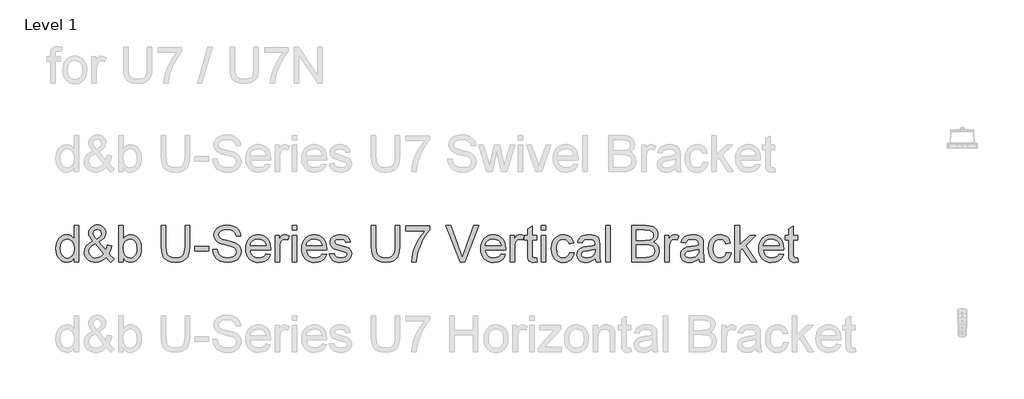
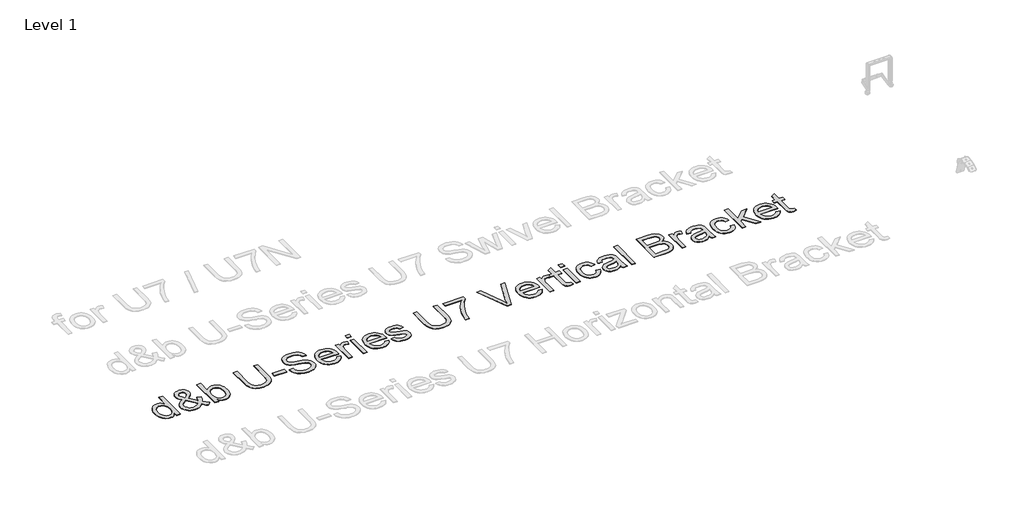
# One storey, part 4 of 29: 1 proxy.
"""IFC4 building model written with IfcOpenShell, lengths in millimetres."""

from ifc_helpers import new_model, si_unit, origin, origin_with_axes, place, context, project, spatial, polyline, outline, extrude, element, save

model = new_model("IFC4")

# Units and contexts
model_context = context("Model", 3, world=origin())
ifc_project = project(units=[si_unit("LENGTHUNIT", "METRE", prefix="MILLI")], contexts=[model_context])

# Site, building, storey
site = spatial("IfcSite", under=ifc_project)
building = spatial("IfcBuilding", under=site)
storey = spatial("IfcBuildingStorey", under=building, Name="Level 1", Elevation=0.0)

# Proxy
placement = place(None, origin())
element("IfcBuildingElementProxy", 1, Name="400mm Arial", ObjectType="400mm Arial", at=placement, inside=storey, context=model_context, shape_type="SweptSolid", body=[
    extrude(outline(polyline([(-20788.4119982, -8835.6363385), (-20788.4119982, -8788.2531375), (-20803.4399777, -8811.7301402), (-20821.6440051, -8828.4994278), (-20843.0240804, -8838.5610004), (-20867.5802036, -8841.9148579), (-20900.051921, -8837.0588156), (-20929.7767862, -8822.4906885), (-20954.9399147, -8799.2282837), (-20973.7264219, -8768.2894079), (-20985.4250694, -8730.9248599), (-20989.3246185, -8688.3854386), (-20985.7316377, -8646.3733147), (-20974.9526952, -8608.4324183), (-20957.0000539, -8576.7209903), (-20931.8859763, -8553.3972718), (-20901.5111863, -8539.049874), (-20867.7764073, -8534.2674081), (-20843.20189, -8537.6887106), (-20821.4723268, -8547.9526183), (-20803.0537016, -8563.6857049), (-20788.4119982, -8583.5145445), (-20788.4119982, -8433.8110979), (-20738.1838431, -8433.8110979), (-20738.1838431, -8835.6363385), (-20788.4119982, -8835.6363385)]), holes=[polyline([(-20939.0964634, -8688.1892348), (-20937.6801177, -8712.5460886), (-20933.4310807, -8733.6226612), (-20926.3493523, -8751.4189528), (-20916.4349325, -8765.9349632), (-20891.7377879, -8785.2487679), (-20877.8625053, -8790.0772191), (-20862.9694159, -8791.6867028), (-20848.0058157, -8790.1507955), (-20834.2133066, -8785.5430735), (-20810.1415614, -8767.1121855), (-20800.6348775, -8753.2031804), (-20793.844389, -8736.0506824), (-20788.4119982, -8692.0152076), (-20793.9424909, -8643.8717172), (-20800.8556067, -8625.336596), (-20810.5339688, -8610.4925575), (-20822.235682, -8599.1188724), (-20835.2188507, -8590.9948117), (-20849.4834751, -8586.1203753), (-20865.0295551, -8584.4955631), (-20880.2169501, -8586.0559959), (-20894.0922327, -8590.7372943), (-20906.6554028, -8598.5394583), (-20917.9064605, -8609.4624879), (-20927.1770868, -8623.7455063), (-20933.7989627, -8641.627637), (-20939.0964634, -8688.1892348)])]), origin_with_axes(), (0.0, 0.0, 1.0), 5.0),
    extrude(outline(polyline([(-20432.4003287, -8785.9967946), (-20457.9313392, -8810.4609473), (-20485.6696416, -8827.9353421), (-20515.664287, -8838.4199789), (-20547.9643262, -8841.9148579), (-20577.2722584, -8839.3274212), (-20603.3918801, -8831.5651111), (-20626.3231911, -8818.6279276), (-20646.0661915, -8800.5158707), (-20658.8991418, -8783.1457092), (-20668.0655348, -8764.7822662), (-20673.5653707, -8745.4255419), (-20675.3986493, -8725.0755362), (-20669.5002746, -8689.881492), (-20651.8051507, -8658.2681659), (-20622.3868538, -8630.2600833), (-20581.3189604, -8605.8817698), (-20603.2324646, -8577.5303307), (-20616.3903773, -8555.0650035), (-20622.975465, -8535.8860888), (-20625.1704942, -8517.3938872), (-20623.4414488, -8499.8397847), (-20618.2543127, -8483.4751673), (-20609.6090858, -8468.300035), (-20597.5057682, -8454.3143878), (-20582.784357, -8442.5973462), (-20566.2848495, -8434.2280308), (-20548.0072457, -8429.2064416), (-20527.9515456, -8427.5325785), (-20508.8032878, -8429.1328652), (-20491.4821772, -8433.9337252), (-20475.9882138, -8441.9351586), (-20462.3213977, -8453.1371654), (-20451.1623105, -8466.5832523), (-20443.1915339, -8481.3169262), (-20438.409068, -8497.3381871), (-20436.8149127, -8514.647035), (-20441.5360649, -8542.6305921), (-20455.6995218, -8568.5049591), (-20479.3052831, -8592.270136), (-20512.353349, -8613.9261227), (-20439.6598668, -8704.4741445), (-20427.2745063, -8678.5997775), (-20417.9793545, -8648.8503868), (-20367.7511994, -8659.7396939), (-20383.2022432, -8706.2645035), (-20403.2640747, -8742.4395664), (-20374.7164319, -8775.7451497), (-20342.6371219, -8803.2627229), (-20380.3082382, -8841.9148579), (-20405.9373505, -8818.4685121), (-20432.4003287, -8785.9967946)]), holes=[polyline([(-20537.7617322, -8582.2392202), (-20511.4949577, -8565.5741659), (-20496.4608468, -8551.091878), (-20489.3975125, -8537.0019976), (-20487.0430678, -8521.5141656), (-20490.1455392, -8503.9661944), (-20499.4529537, -8489.9744158), (-20513.4202068, -8480.8141542), (-20530.5021941, -8477.7607336), (-20547.9520634, -8480.7896287), (-20562.2381476, -8489.876314), (-20571.7662912, -8503.3285323), (-20574.9423391, -8519.4540264), (-20570.6258571, -8537.8481261), (-20557.578309, -8558.3023651), (-20537.7617322, -8582.2392202)]), polyline([(-20466.0492686, -8749.7972063), (-20555.7143735, -8637.8629779), (-20589.9641873, -8659.7151684), (-20610.8966728, -8679.9486782), (-20621.6020389, -8699.2747456), (-20625.1704942, -8718.4046094), (-20620.2899264, -8742.0962099), (-20605.648223, -8766.6707271), (-20594.8692805, -8777.6152165), (-20582.0547244, -8785.4327089), (-20567.2045545, -8790.1232043), (-20550.3187709, -8791.6867028), (-20527.5959264, -8788.7681723), (-20504.1618433, -8780.0125808), (-20482.7388484, -8766.6216762), (-20466.0492686, -8749.7972063)])]), origin_with_axes(), (0.0, 0.0, 1.0), 5.0),
    extrude(outline(polyline([(-20242.1808118, -8835.6363385), (-20292.4089668, -8835.6363385), (-20292.4089668, -8433.8110979), (-20242.1808118, -8433.8110979), (-20242.1808118, -8582.8278314), (-20225.6629102, -8561.5826462), (-20207.011293, -8546.4075139), (-20186.2259603, -8537.3024345), (-20163.306912, -8534.2674081), (-20137.432545, -8537.0019976), (-20112.9806551, -8545.2057661), (-20091.3491937, -8558.3636787), (-20073.9361126, -8575.9607008), (-20060.2876906, -8597.8251541), (-20049.9502065, -8623.7853602), (-20043.4386952, -8652.7621987), (-20041.2681915, -8683.676549), (-20043.5153373, -8719.3488398), (-20050.2567749, -8750.729174), (-20061.4925041, -8777.8175516), (-20077.2225251, -8800.6139726), (-20096.1040685, -8818.6831099), (-20116.7943651, -8831.5896366), (-20139.2934148, -8839.3335526), (-20163.6012176, -8841.9148579), (-20187.274424, -8838.5855258), (-20208.2620918, -8828.5975297), (-20226.5642211, -8811.9508694), (-20242.1808118, -8788.645545), (-20242.1808118, -8835.6363385)]), holes=[polyline([(-20242.1808118, -8686.0309938), (-20238.7472465, -8727.9204903), (-20228.4465506, -8756.2719294), (-20216.2757879, -8771.7658928), (-20202.1307252, -8782.8330095), (-20186.0113625, -8789.4732795), (-20167.9176997, -8791.6867028), (-20152.8958515, -8790.0557593), (-20138.9285984, -8785.1629288), (-20126.0159404, -8777.0082112), (-20114.1578774, -8765.5916066), (-20104.2434577, -8750.9437719), (-20097.1617293, -8733.0953637), (-20092.9126922, -8712.0463822), (-20091.4963465, -8687.7968274), (-20096.9287373, -8641.8361035), (-20103.7192258, -8624.0428776), (-20113.2259097, -8609.7077425), (-20124.6578427, -8598.677414), (-20137.2240785, -8590.798608), (-20150.9246172, -8586.0713243), (-20165.7594586, -8584.4955631), (-20180.7813068, -8586.1265066), (-20194.7485599, -8591.0193372), (-20207.6612179, -8599.1740547), (-20219.5192809, -8610.5906593), (-20229.4337006, -8625.0913413), (-20236.515429, -8642.498291), (-20240.7644661, -8662.8115085), (-20242.1808118, -8686.0309938)])]), origin_with_axes(), (0.0, 0.0, 1.0), 5.0),
    extrude(outline(polyline([(-19557.8221989, -8433.8110979), (-19507.5940438, -8433.8110979), (-19507.5940438, -8665.6258058), (-19511.0030836, -8719.9129256), (-19521.2302031, -8761.7165829), (-19529.4155775, -8778.6698116), (-19540.3355414, -8793.9675712), (-19570.3792376, -8819.5966835), (-19589.5213641, -8829.3608848), (-19611.4348683, -8836.3353143), (-19663.5760097, -8841.9148579), (-19714.576717, -8837.0588156), (-19755.3503048, -8822.4906885), (-19771.9049946, -8811.6902863), (-19785.9090359, -8798.7132489), (-19797.3624287, -8783.5595764), (-19806.2651729, -8766.2292688), (-19817.706303, -8722.6597778), (-19821.520013, -8665.6258058), (-19821.520013, -8433.8110979), (-19771.2918579, -8433.8110979), (-19771.2918579, -8663.8599722), (-19768.8147858, -8708.999093), (-19761.3835695, -8740.4284782), (-19747.9190885, -8762.1948295), (-19727.3422222, -8778.3448491), (-19700.5113621, -8788.3512394), (-19668.2848993, -8791.6867028), (-19640.6017791, -8790.0373652), (-19617.1983529, -8785.0893524), (-19598.0746205, -8776.8426643), (-19583.230582, -8765.297301), (-19572.1144144, -8749.0614423), (-19564.1742947, -8726.7432679), (-19559.4102228, -8698.3427779), (-19557.8221989, -8663.8599722), (-19557.8221989, -8433.8110979)])), origin_with_axes(), (0.0, 0.0, 1.0), 5.0),
    extrude(outline(polyline([(-19451.0873693, -8716.3444702), (-19451.0873693, -8666.1163151), (-19294.1243847, -8666.1163151), (-19294.1243847, -8716.3444702), (-19451.0873693, -8716.3444702)])), origin_with_axes(), (0.0, 0.0, 1.0), 5.0),
    extrude(outline(polyline([(-19250.174749, -8697.5089121), (-19199.946594, -8697.5089121), (-19194.1831094, -8725.3821046), (-19183.7597862, -8747.7861181), (-19167.499402, -8765.5670812), (-19144.2247344, -8779.5711224), (-19115.7751935, -8788.6578077), (-19083.9901891, -8791.6867028), (-19056.006632, -8789.3935717), (-19031.5056911, -8782.5141784), (-19011.6523261, -8771.6248713), (-18997.6114966, -8757.301999), (-18989.2605753, -8740.8576738), (-18986.4769349, -8723.6040082), (-18988.5615995, -8706.7918011), (-18994.8155934, -8692.2604623), (-19007.519785, -8679.862839), (-19028.9550426, -8669.4517786), (-19102.0899832, -8650.2728639), (-19150.0985836, -8637.580935), (-19180.8167302, -8625.5021429), (-19205.8204431, -8608.6040966), (-19223.5400926, -8588.1253322), (-19234.0983058, -8564.5073081), (-19237.6177103, -8538.1914827), (-19233.26444, -8508.7731858), (-19220.2046292, -8481.3414517), (-19198.7816343, -8458.0913096), (-19169.338812, -8441.2177887), (-19133.997615, -8430.9538811), (-19094.8794961, -8427.5325785), (-19052.4994903, -8431.1132966), (-19015.4169852, -8441.8554509), (-18984.956356, -8459.5383121), (-18962.4419779, -8483.9411511), (-18948.1926819, -8513.543389), (-18942.5272992, -8546.8244468), (-18992.7554543, -8546.8244468), (-19001.9770296, -8516.854327), (-19010.3402136, -8504.996264), (-19021.2049952, -8495.2228656), (-19051.2486915, -8482.1262666), (-19092.9174588, -8477.7607336), (-19135.5672448, -8482.0772157), (-19151.8705486, -8487.4728183), (-19164.8261262, -8495.0266619), (-19181.7486979, -8514.0829493), (-19187.3895552, -8536.7199547), (-19183.3919042, -8556.0214967), (-19171.3989511, -8571.5461169), (-19143.047512, -8585.4275309), (-19089.3857917, -8599.6032504), (-19034.0072887, -8613.0677314), (-19000.5055016, -8624.8154298), (-18971.8720197, -8643.0378513), (-18951.8960273, -8665.5277039), (-18940.1605917, -8692.0397331), (-18936.2487798, -8722.328684), (-18940.7492029, -8753.2920853), (-18954.2504721, -8782.4160765), (-18976.2007645, -8807.4811031), (-19006.048257, -8826.2676104), (-19041.941277, -8838.003046), (-19082.0281518, -8841.9148579), (-19131.2385, -8837.6964777), (-19171.7423077, -8825.041337), (-19204.0055586, -8803.9003851), (-19228.4942368, -8774.2245708), (-19244.2150607, -8738.0740334), (-19250.174749, -8697.5089121)])), origin_with_axes(), (0.0, 0.0, 1.0), 5.0),
    extrude(outline(polyline([(-18660.5825381, -8747.7370671), (-18611.3354017, -8754.0155865), (-18618.8861796, -8773.7401928), (-18629.0795766, -8791.1226171), (-18641.9155925, -8806.1628593), (-18657.3942275, -8818.8609195), (-18675.3560659, -8828.9470176), (-18695.6416922, -8836.1513733), (-18743.1843087, -8841.9148579), (-18774.3500451, -8839.4285887), (-18802.1190044, -8831.9697813), (-18826.4911866, -8819.5384355), (-18847.4665916, -8802.1345515), (-18864.3339811, -8780.2425071), (-18876.3821165, -8754.3466803), (-18883.6109977, -8724.4470712), (-18886.0206247, -8690.5436796), (-18883.5864722, -8655.4906568), (-18876.2840146, -8624.5947006), (-18864.1132519, -8597.8558109), (-18847.0741842, -8575.2739878), (-18826.1539614, -8557.3336092), (-18802.3397336, -8544.519053), (-18775.6315007, -8536.8303193), (-18746.0292628, -8534.2674081), (-18717.3804525, -8536.8241879), (-18691.472363, -8544.4945275), (-18668.3049943, -8557.2784269), (-18647.8783465, -8575.1758859), (-18631.2040951, -8597.7086581), (-18619.2939155, -8624.3984969), (-18612.1478077, -8655.2454022), (-18609.7657718, -8690.249374), (-18610.0600774, -8703.7874314), (-18835.7924697, -8703.7874314), (-18832.8831362, -8723.8308688), (-18827.0981918, -8741.3849713), (-18818.4376365, -8756.449739), (-18806.9014703, -8769.0251719), (-18793.1273553, -8778.9395917), (-18777.7529536, -8786.0213201), (-18742.2032901, -8791.6867028), (-18715.4705318, -8789.0624779), (-18692.9561537, -8781.1898032), (-18674.6601558, -8767.5781694), (-18660.5825381, -8747.7370671)]), holes=[polyline([(-18835.7924697, -8653.5592764), (-18659.9939269, -8653.5592764), (-18666.7874811, -8627.0227218), (-18680.1048093, -8608.0400108), (-18693.8022823, -8597.739315), (-18709.3882161, -8590.3816751), (-18726.8626109, -8585.9670911), (-18746.2254666, -8584.4955631), (-18780.0828729, -8589.1921899), (-18808.0786927, -8603.2820704), (-18827.5396502, -8625.2446255), (-18835.7924697, -8653.5592764)])]), origin_with_axes(), (0.0, 0.0, 1.0), 5.0),
    extrude(outline(polyline([(-18559.5376168, -8835.6363385), (-18559.5376168, -8540.5459274), (-18515.5879811, -8540.5459274), (-18515.5879811, -8584.2012575), (-18499.3521223, -8558.8909763), (-18484.3915879, -8543.9794927), (-18469.3820025, -8536.6954292), (-18452.998991, -8534.2674081), (-18427.9830153, -8538.1424317), (-18402.5746321, -8549.7675028), (-18419.3500511, -8594.796259), (-18437.0083869, -8587.0707371), (-18454.6667227, -8584.4955631), (-18469.6640453, -8586.9726352), (-18483.0672127, -8594.4038515), (-18493.8952061, -8606.2251263), (-18501.1670069, -8621.8723738), (-18507.273848, -8649.9295073), (-18509.3094617, -8680.5372893), (-18509.3094617, -8835.6363385), (-18559.5376168, -8835.6363385)])), origin_with_axes(), (0.0, 0.0, 1.0), 5.0),
    extrude(outline(polyline([(-18371.1820352, -8484.039253), (-18371.1820352, -8433.8110979), (-18320.9538802, -8433.8110979), (-18320.9538802, -8484.039253), (-18371.1820352, -8484.039253)])), origin_with_axes(), (0.0, 0.0, 1.0), 5.0),
    extrude(outline(polyline([(-18371.1820352, -8835.6363385), (-18371.1820352, -8540.5459274), (-18320.9538802, -8540.5459274), (-18320.9538802, -8835.6363385), (-18371.1820352, -8835.6363385)])), origin_with_axes(), (0.0, 0.0, 1.0), 5.0),
    extrude(outline(polyline([(-18039.009119, -8747.7370671), (-17989.7619826, -8754.0155865), (-17997.3127606, -8773.7401928), (-18007.5061575, -8791.1226171), (-18020.3421735, -8806.1628593), (-18035.8208084, -8818.8609195), (-18053.7826468, -8828.9470176), (-18074.0682732, -8836.1513733), (-18121.6108897, -8841.9148579), (-18152.7766261, -8839.4285887), (-18180.5455853, -8831.9697813), (-18204.9177675, -8819.5384355), (-18225.8931726, -8802.1345515), (-18242.7605621, -8780.2425071), (-18254.8086974, -8754.3466803), (-18262.0375786, -8724.4470712), (-18264.4472057, -8690.5436796), (-18262.0130532, -8655.4906568), (-18254.7105956, -8624.5947006), (-18242.5398329, -8597.8558109), (-18225.5007651, -8575.2739878), (-18204.5805423, -8557.3336092), (-18180.7663145, -8544.519053), (-18154.0580817, -8536.8303193), (-18124.4558438, -8534.2674081), (-18095.8070334, -8536.8241879), (-18069.8989439, -8544.4945275), (-18046.7315753, -8557.2784269), (-18026.3049275, -8575.1758859), (-18009.630676, -8597.7086581), (-17997.7204965, -8624.3984969), (-17990.5743887, -8655.2454022), (-17988.1923528, -8690.249374), (-17988.4866584, -8703.7874314), (-18214.2190506, -8703.7874314), (-18211.3097172, -8723.8308688), (-18205.5247728, -8741.3849713), (-18196.8642175, -8756.449739), (-18185.3280513, -8769.0251719), (-18171.5539362, -8778.9395917), (-18156.1795345, -8786.0213201), (-18120.629871, -8791.6867028), (-18093.8971127, -8789.0624779), (-18071.3827346, -8781.1898032), (-18053.0867367, -8767.5781694), (-18039.009119, -8747.7370671)]), holes=[polyline([(-18214.2190506, -8653.5592764), (-18038.4205079, -8653.5592764), (-18045.214062, -8627.0227218), (-18058.5313903, -8608.0400108), (-18072.2288632, -8597.739315), (-18087.8147971, -8590.3816751), (-18105.2891918, -8585.9670911), (-18124.6520475, -8584.4955631), (-18158.5094538, -8589.1921899), (-18186.5052736, -8603.2820704), (-18205.9662312, -8625.2446255), (-18214.2190506, -8653.5592764)])]), origin_with_axes(), (0.0, 0.0, 1.0), 5.0),
    extrude(outline(polyline([(-17956.7997559, -8747.7370671), (-17906.5716008, -8741.4585477), (-17898.6498752, -8762.9428563), (-17883.3214587, -8778.7372566), (-17860.4882495, -8788.4493413), (-17830.0521458, -8791.6867028), (-17799.983924, -8788.7191214), (-17778.8429721, -8779.8163771), (-17766.3349842, -8766.9159818), (-17762.1656549, -8751.9554473), (-17766.3595097, -8739.1531539), (-17778.9410739, -8729.3920183), (-17830.640757, -8715.069146), (-17906.2772952, -8690.4946287), (-17925.4194217, -8678.1460564), (-17939.2885729, -8661.7998331), (-17947.7130706, -8642.498291), (-17950.5212365, -8621.2837627), (-17948.2648936, -8601.8228051), (-17941.4958649, -8583.857901), (-17930.827287, -8568.1002889), (-17916.8722966, -8555.2612073), (-17884.9401395, -8540.3987746), (-17864.0567049, -8535.8002497), (-17841.7262678, -8534.2674081), (-17809.0338211, -8536.7322174), (-17780.6088056, -8544.1266455), (-17757.751071, -8555.7271911), (-17741.7604669, -8570.8103529), (-17731.1654655, -8590.4920397), (-17724.4945386, -8615.8881601), (-17774.7226937, -8622.1666794), (-17781.0625268, -8606.3600164), (-17793.6073028, -8594.4529025), (-17812.4796492, -8586.984898), (-17837.8021932, -8584.4955631), (-17866.6441416, -8586.8745334), (-17885.8721072, -8594.0114441), (-17896.6878378, -8604.3121399), (-17900.2930814, -8616.1824657), (-17894.3088676, -8630.7996436), (-17875.5714113, -8641.8851544), (-17832.3084887, -8652.5782577), (-17758.5849369, -8676.2208073), (-17739.1117166, -8687.5270473), (-17724.3473858, -8703.0026165), (-17715.0399714, -8722.696566), (-17711.9374999, -8746.6579466), (-17715.5795316, -8771.4286676), (-17726.5056269, -8794.7278606), (-17744.2988527, -8814.7283785), (-17768.5422762, -8829.6030738), (-17797.825683, -8838.8369119), (-17830.7388588, -8841.9148579), (-17857.7720541, -8840.4310672), (-17881.3839468, -8835.979695), (-17901.574537, -8828.5607415), (-17918.3438246, -8818.1742065), (-17932.0412976, -8804.869141), (-17943.0164438, -8788.6945959), (-17951.2692632, -8769.6505713), (-17956.7997559, -8747.7370671)])), origin_with_axes(), (0.0, 0.0, 1.0), 5.0),
    extrude(outline(polyline([(-17228.4915073, -8433.8110979), (-17178.2633522, -8433.8110979), (-17178.2633522, -8665.6258058), (-17181.672392, -8719.9129256), (-17191.8995115, -8761.7165829), (-17200.0848859, -8778.6698116), (-17211.0048498, -8793.9675712), (-17241.048546, -8819.5966835), (-17260.1906725, -8829.3608848), (-17282.1041767, -8836.3353143), (-17334.2453182, -8841.9148579), (-17385.2460254, -8837.0588156), (-17426.0196132, -8822.4906885), (-17442.574303, -8811.6902863), (-17456.5783443, -8798.7132489), (-17468.0317371, -8783.5595764), (-17476.9344814, -8766.2292688), (-17488.3756114, -8722.6597778), (-17492.1893214, -8665.6258058), (-17492.1893214, -8433.8110979), (-17441.9611663, -8433.8110979), (-17441.9611663, -8663.8599722), (-17439.4840942, -8708.999093), (-17432.0528779, -8740.4284782), (-17418.5883969, -8762.1948295), (-17398.0115307, -8778.3448491), (-17371.1806705, -8788.3512394), (-17338.9542077, -8791.6867028), (-17311.2710876, -8790.0373652), (-17287.8676613, -8785.0893524), (-17268.7439289, -8776.8426643), (-17253.8998904, -8765.297301), (-17242.7837228, -8749.0614423), (-17234.8436031, -8726.7432679), (-17230.0795312, -8698.3427779), (-17228.4915073, -8663.8599722), (-17228.4915073, -8433.8110979)])), origin_with_axes(), (0.0, 0.0, 1.0), 5.0),
    extrude(outline(polyline([(-17109.199639, -8490.3177724), (-17109.199639, -8440.0896173), (-16845.5018248, -8440.0896173), (-16845.5018248, -8480.7037896), (-16883.087102, -8528.2709315), (-16920.3044972, -8588.7629943), (-16953.1318339, -8656.6617479), (-16977.5469356, -8726.4489623), (-16989.5153632, -8778.6636802), (-16996.1862901, -8835.6363385), (-17046.4144451, -8835.6363385), (-17040.9820543, -8783.8630791), (-17026.4507155, -8722.328684), (-17003.2128362, -8657.1032063), (-16971.6608237, -8594.2566987), (-16934.8235733, -8537.443456), (-16895.7299799, -8490.3177724), (-17109.199639, -8490.3177724)])), origin_with_axes(), (0.0, 0.0, 1.0), 5.0),
    extrude(outline(polyline([(-16507.1484911, -8835.6363385), (-16666.9564298, -8433.8110979), (-16613.1966076, -8433.8110979), (-16506.1674725, -8723.3097026), (-16484.4869602, -8788.5474431), (-16463.1007536, -8723.3097026), (-16355.7773128, -8433.8110979), (-16302.1155925, -8433.8110979), (-16455.3507062, -8835.6363385), (-16507.1484911, -8835.6363385)])), origin_with_axes(), (0.0, 0.0, 1.0), 5.0),
    extrude(outline(polyline([(-16054.9969936, -8747.7370671), (-16005.7498572, -8754.0155865), (-16013.3006351, -8773.7401928), (-16023.4940321, -8791.1226171), (-16036.330048, -8806.1628593), (-16051.808683, -8818.8609195), (-16069.7705214, -8828.9470176), (-16090.0561477, -8836.1513733), (-16137.5987642, -8841.9148579), (-16168.7645006, -8839.4285887), (-16196.5334599, -8831.9697813), (-16220.9056421, -8819.5384355), (-16241.8810471, -8802.1345515), (-16258.7484366, -8780.2425071), (-16270.796572, -8754.3466803), (-16278.0254532, -8724.4470712), (-16280.4350802, -8690.5436796), (-16278.0009277, -8655.4906568), (-16270.6984701, -8624.5947006), (-16258.5277074, -8597.8558109), (-16241.4886397, -8575.2739878), (-16220.5684169, -8557.3336092), (-16196.7541891, -8544.519053), (-16170.0459562, -8536.8303193), (-16140.4437183, -8534.2674081), (-16111.794908, -8536.8241879), (-16085.8868185, -8544.4945275), (-16062.7194498, -8557.2784269), (-16042.292802, -8575.1758859), (-16025.6185506, -8597.7086581), (-16013.708371, -8624.3984969), (-16006.5622632, -8655.2454022), (-16004.1802273, -8690.249374), (-16004.4745329, -8703.7874314), (-16230.2069252, -8703.7874314), (-16227.2975917, -8723.8308688), (-16221.5126473, -8741.3849713), (-16212.852092, -8756.449739), (-16201.3159258, -8769.0251719), (-16187.5418108, -8778.9395917), (-16172.1674091, -8786.0213201), (-16136.6177456, -8791.6867028), (-16109.8849873, -8789.0624779), (-16087.3706092, -8781.1898032), (-16069.0746113, -8767.5781694), (-16054.9969936, -8747.7370671)]), holes=[polyline([(-16230.2069252, -8653.5592764), (-16054.4083824, -8653.5592764), (-16061.2019366, -8627.0227218), (-16074.5192648, -8608.0400108), (-16088.2167378, -8597.739315), (-16103.8026716, -8590.3816751), (-16121.2770664, -8585.9670911), (-16140.6399221, -8584.4955631), (-16174.4973284, -8589.1921899), (-16202.4931482, -8603.2820704), (-16221.9541057, -8625.2446255), (-16230.2069252, -8653.5592764)])]), origin_with_axes(), (0.0, 0.0, 1.0), 5.0),
    extrude(outline(polyline([(-15953.9520723, -8835.6363385), (-15953.9520723, -8540.5459274), (-15910.0024366, -8540.5459274), (-15910.0024366, -8584.2012575), (-15893.7665778, -8558.8909763), (-15878.8060434, -8543.9794927), (-15863.796458, -8536.6954292), (-15847.4134464, -8534.2674081), (-15822.3974708, -8538.1424317), (-15796.9890876, -8549.7675028), (-15813.7645066, -8594.796259), (-15831.4228424, -8587.0707371), (-15849.0811782, -8584.4955631), (-15864.0785008, -8586.9726352), (-15877.4816682, -8594.4038515), (-15888.3096616, -8606.2251263), (-15895.5814623, -8621.8723738), (-15901.6883035, -8649.9295073), (-15903.7239172, -8680.5372893), (-15903.7239172, -8835.6363385), (-15953.9520723, -8835.6363385)])), origin_with_axes(), (0.0, 0.0, 1.0), 5.0),
    extrude(outline(polyline([(-15658.8616612, -8793.746842), (-15652.5831418, -8837.1078665), (-15690.1561562, -8841.9148579), (-15714.2646897, -8839.8301933), (-15732.2418565, -8833.5761993), (-15744.9460481, -8823.9376911), (-15753.2356557, -8811.6994834), (-15757.7973924, -8790.6811587), (-15759.3179713, -8754.7022996), (-15759.3179713, -8590.7740825), (-15796.9890876, -8590.7740825), (-15796.9890876, -8540.5459274), (-15759.3179713, -8540.5459274), (-15759.3179713, -8468.8334639), (-15709.0898163, -8439.3048024), (-15709.0898163, -8540.5459274), (-15658.8616612, -8540.5459274), (-15658.8616612, -8590.7740825), (-15709.0898163, -8590.7740825), (-15709.0898163, -8753.2307716), (-15706.4410659, -8779.1296641), (-15697.8571527, -8788.3021885), (-15680.7383772, -8791.6867028), (-15658.8616612, -8793.746842)])), origin_with_axes(), (0.0, 0.0, 1.0), 5.0),
    extrude(outline(polyline([(-15608.6335061, -8484.039253), (-15608.6335061, -8433.8110979), (-15558.405351, -8433.8110979), (-15558.405351, -8484.039253), (-15608.6335061, -8484.039253)])), origin_with_axes(), (0.0, 0.0, 1.0), 5.0),
    extrude(outline(polyline([(-15608.6335061, -8835.6363385), (-15608.6335061, -8540.5459274), (-15558.405351, -8540.5459274), (-15558.405351, -8835.6363385), (-15608.6335061, -8835.6363385)])), origin_with_axes(), (0.0, 0.0, 1.0), 5.0),
    extrude(outline(polyline([(-15294.7075369, -8728.901509), (-15244.4793818, -8735.1800284), (-15249.9424294, -8758.8808259), (-15258.4834231, -8779.8531653), (-15270.1023628, -8798.0970466), (-15284.7992485, -8813.6124697), (-15301.9548122, -8825.9947646), (-15320.9497859, -8834.8392609), (-15341.7841695, -8840.1459586), (-15364.4579632, -8841.9148579), (-15392.628527, -8839.4469828), (-15417.8866916, -8832.0433577), (-15440.2324571, -8819.7039824), (-15459.6658235, -8802.4288571), (-15475.3958445, -8780.542944), (-15486.6315738, -8754.3712058), (-15493.3730113, -8723.9136423), (-15495.6201572, -8689.1702535), (-15491.7819217, -8644.4725911), (-15480.2672153, -8605.734617), (-15460.8920968, -8574.4523847), (-15433.4726255, -8552.1219476), (-15400.6698142, -8538.7310429), (-15365.1446762, -8534.2674081), (-15342.8602244, -8535.8002497), (-15322.7033567, -8540.3987746), (-15304.6740733, -8548.0629829), (-15288.772374, -8558.7928744), (-15275.2680391, -8572.3431946), (-15264.4308487, -8588.4686887), (-15256.2608027, -8607.1693568), (-15250.7579012, -8628.4451988), (-15300.9860563, -8634.7237182), (-15310.097267, -8612.810214), (-15324.2852493, -8597.1016528), (-15342.7651882, -8587.6470856), (-15364.7522688, -8584.4955631), (-15381.8189277, -8586.0467989), (-15397.2117235, -8590.7005061), (-15410.9306562, -8598.4566849), (-15422.9757259, -8609.3153351), (-15432.7828467, -8623.5278428), (-15439.7879331, -8641.3455941), (-15443.9909849, -8662.768589), (-15445.3920021, -8687.7968274), (-15439.9105604, -8734.87346), (-15433.0587582, -8752.810773), (-15423.4662352, -8767.0140837), (-15411.6602888, -8777.8083546), (-15398.1682167, -8785.518548), (-15382.9900187, -8790.1446641), (-15366.1256949, -8791.6867028), (-15340.1164378, -8787.8362046), (-15318.7915448, -8776.28471), (-15303.2791874, -8756.7379133), (-15294.7075369, -8728.901509)])), origin_with_axes(), (0.0, 0.0, 1.0), 5.0),
    extrude(outline(polyline([(-15012.1741646, -8797.9652222), (-15036.1723334, -8818.5420885), (-15060.8817408, -8832.0065695), (-15086.8664724, -8839.4377858), (-15114.6906139, -8841.9148579), (-15137.0547735, -8840.4249358), (-15156.6659496, -8835.9551696), (-15173.524142, -8828.5055592), (-15187.6293508, -8818.0761046), (-15198.7669782, -8805.3289935), (-15206.7224264, -8790.9264134), (-15211.4956953, -8774.8683643), (-15213.0867849, -8757.1548462), (-15210.6832892, -8736.3327253), (-15203.4728021, -8717.4235907), (-15192.3505031, -8701.2367829), (-15178.2115718, -8688.5816423), (-15161.5955683, -8679.0167104), (-15143.042053, -8672.1005289), (-15099.5829267, -8664.5466853), (-15048.2266001, -8656.6004342), (-15012.4684702, -8647.280757), (-15012.1741646, -8636.0971443), (-15015.6322554, -8613.6808681), (-15026.0065276, -8599.0146392), (-15049.2076188, -8588.1253322), (-15081.5321834, -8584.4955631), (-15111.4532524, -8586.9113216), (-15132.3489497, -8594.1585969), (-15146.5982456, -8607.5617642), (-15156.5801104, -8628.4451988), (-15206.8082655, -8622.1666794), (-15198.0894622, -8594.6981571), (-15185.0787023, -8573.1157468), (-15166.5619752, -8556.6101079), (-15141.3252704, -8544.3719002), (-15110.459971, -8536.7935311), (-15075.0574603, -8534.2674081), (-15041.1019522, -8536.4992255), (-15014.1852528, -8543.1946778), (-14993.8904294, -8553.2623817), (-14979.800549, -8565.610954), (-14970.4563463, -8580.8780568), (-14964.3985562, -8599.7013523), (-14961.9460095, -8643.650988), (-14961.9460095, -8706.1418762), (-14959.395361, -8793.4034855), (-14949.3889708, -8835.6363385), (-14999.6171258, -8835.6363385), (-15007.6614788, -8818.1742065), (-15012.1741646, -8797.9652222)]), holes=[polyline([(-15012.1741646, -8697.5089121), (-15045.9212063, -8705.8720961), (-15093.2063054, -8712.9109049), (-15136.4201771, -8721.0533597), (-15147.6651034, -8726.6206406), (-15155.9914992, -8734.2971116), (-15161.1418472, -8743.4941615), (-15162.8586298, -8753.6231791), (-15159.1184962, -8768.5591881), (-15147.8980954, -8780.7973958), (-15129.4426819, -8788.9643761), (-15103.9975106, -8791.6867028), (-15077.0194976, -8788.6823332), (-15053.1807443, -8779.6692243), (-15033.8546768, -8766.3886843), (-15020.4147213, -8750.5820212), (-15014.455033, -8734.2971116), (-15012.4684702, -8711.7336825), (-15012.1741646, -8697.5089121)])]), origin_with_axes(), (0.0, 0.0, 1.0), 5.0),
    extrude(outline(polyline([(-14892.8822963, -8835.6363385), (-14892.8822963, -8433.8110979), (-14842.6541412, -8433.8110979), (-14842.6541412, -8835.6363385), (-14892.8822963, -8835.6363385)])), origin_with_axes(), (0.0, 0.0, 1.0), 5.0),
    extrude(outline(polyline([(-14604.0704046, -8835.6363385), (-14604.0704046, -8433.8110979), (-14450.737189, -8433.8110979), (-14408.5656496, -8436.7664166), (-14375.6402111, -8445.6323727), (-14350.4035062, -8460.6296954), (-14331.2981679, -8481.9791138), (-14319.2684267, -8507.0931914), (-14315.2585129, -8533.3844913), (-14318.6307646, -8557.5788638), (-14328.7475194, -8580.3262339), (-14345.6823539, -8600.2286498), (-14369.5088445, -8615.8881601), (-14341.0470408, -8630.7505927), (-14320.0164534, -8653.3630726), (-14307.030219, -8682.2295465), (-14302.7014742, -8715.8539609), (-14305.6567929, -8743.8743062), (-14314.5227489, -8769.8590378), (-14327.754238, -8791.9564829), (-14343.8061558, -8808.314969), (-14363.463317, -8820.1607692), (-14387.5105368, -8828.720157), (-14416.7326299, -8833.9072931), (-14451.9144114, -8835.6363385), (-14604.0704046, -8835.6363385)]), holes=[polyline([(-14553.8422495, -8785.4081834), (-14450.8352909, -8785.4081834), (-14413.556582, -8783.4461461), (-14382.0168323, -8772.5077881), (-14370.4408122, -8763.0777463), (-14361.121135, -8750.1896138), (-14354.9775057, -8734.4197389), (-14352.9296292, -8716.3444702), (-14355.3331249, -8695.350671), (-14362.543612, -8677.2999278), (-14375.137439, -8663.1855219), (-14393.6909543, -8654.0007348), (-14419.9699915, -8648.9607514), (-14455.7403842, -8647.280757), (-14553.8422495, -8647.280757), (-14553.8422495, -8785.4081834)]), polyline([(-14553.8422495, -8597.0526019), (-14462.1170054, -8597.0526019), (-14408.5533869, -8592.7361198), (-14389.8036679, -8585.2926408), (-14376.3269241, -8574.1458163), (-14368.196732, -8559.4673247), (-14365.486668, -8541.4288442), (-14368.012791, -8523.9176613), (-14375.5911601, -8508.6628212), (-14387.8784188, -8496.7557073), (-14404.5312104, -8489.2877028), (-14430.0867464, -8485.3513654), (-14469.0822379, -8484.039253), (-14553.8422495, -8484.039253), (-14553.8422495, -8597.0526019)])]), origin_with_axes(), (0.0, 0.0, 1.0), 5.0),
    extrude(outline(polyline([(-14239.9162803, -8835.6363385), (-14239.9162803, -8540.5459274), (-14195.9666446, -8540.5459274), (-14195.9666446, -8584.2012575), (-14179.7307859, -8558.8909763), (-14164.7702514, -8543.9794927), (-14149.760666, -8536.6954292), (-14133.3776545, -8534.2674081), (-14108.3616788, -8538.1424317), (-14082.9532957, -8549.7675028), (-14099.7287147, -8594.796259), (-14117.3870505, -8587.0707371), (-14135.0453862, -8584.4955631), (-14150.0427089, -8586.9726352), (-14163.4458763, -8594.4038515), (-14174.2738697, -8606.2251263), (-14181.5456704, -8621.8723738), (-14187.6525115, -8649.9295073), (-14189.6881252, -8680.5372893), (-14189.6881252, -8835.6363385), (-14239.9162803, -8835.6363385)])), origin_with_axes(), (0.0, 0.0, 1.0), 5.0),
    extrude(outline(polyline([(-13863.2051173, -8797.9652222), (-13887.2032861, -8818.5420885), (-13911.9126934, -8832.0065695), (-13937.897425, -8839.4377858), (-13965.7215666, -8841.9148579), (-13988.0857262, -8840.4249358), (-14007.6969022, -8835.9551696), (-14024.5550947, -8828.5055592), (-14038.6603035, -8818.0761046), (-14049.7979309, -8805.3289935), (-14057.753379, -8790.9264134), (-14062.5266479, -8774.8683643), (-14064.1177376, -8757.1548462), (-14061.7142419, -8736.3327253), (-14054.5037548, -8717.4235907), (-14043.3814558, -8701.2367829), (-14029.2425244, -8688.5816423), (-14012.626521, -8679.0167104), (-13994.0730057, -8672.1005289), (-13950.6138793, -8664.5466853), (-13899.2575528, -8656.6004342), (-13863.4994229, -8647.280757), (-13863.2051173, -8636.0971443), (-13866.663208, -8613.6808681), (-13877.0374803, -8599.0146392), (-13900.2385714, -8588.1253322), (-13932.5631361, -8584.4955631), (-13962.484205, -8586.9113216), (-13983.3799024, -8594.1585969), (-13997.6291983, -8607.5617642), (-14007.6110631, -8628.4451988), (-14057.8392182, -8622.1666794), (-14049.1204149, -8594.6981571), (-14036.109655, -8573.1157468), (-14017.5929279, -8556.6101079), (-13992.356223, -8544.3719002), (-13961.4909236, -8536.7935311), (-13926.088413, -8534.2674081), (-13892.1329048, -8536.4992255), (-13865.2162055, -8543.1946778), (-13844.9213821, -8553.2623817), (-13830.8315017, -8565.610954), (-13821.487299, -8580.8780568), (-13815.4295088, -8599.7013523), (-13812.9769622, -8643.650988), (-13812.9769622, -8706.1418762), (-13810.4263137, -8793.4034855), (-13800.4199234, -8835.6363385), (-13850.6480785, -8835.6363385), (-13858.6924315, -8818.1742065), (-13863.2051173, -8797.9652222)]), holes=[polyline([(-13863.2051173, -8697.5089121), (-13896.952159, -8705.8720961), (-13944.2372581, -8712.9109049), (-13987.4511298, -8721.0533597), (-13998.6960561, -8726.6206406), (-14007.0224519, -8734.2971116), (-14012.1727998, -8743.4941615), (-14013.8895825, -8753.6231791), (-14010.1494489, -8768.5591881), (-13998.929048, -8780.7973958), (-13980.4736346, -8788.9643761), (-13955.0284633, -8791.6867028), (-13928.0504503, -8788.6823332), (-13904.211697, -8779.6692243), (-13884.8856295, -8766.3886843), (-13871.445674, -8750.5820212), (-13865.4859856, -8734.2971116), (-13863.4994229, -8711.7336825), (-13863.2051173, -8697.5089121)])]), origin_with_axes(), (0.0, 0.0, 1.0), 5.0),
    extrude(outline(polyline([(-13555.5576674, -8728.901509), (-13505.3295124, -8735.1800284), (-13510.79256, -8758.8808259), (-13519.3335536, -8779.8531653), (-13530.9524933, -8798.0970466), (-13545.649379, -8813.6124697), (-13562.8049427, -8825.9947646), (-13581.7999164, -8834.8392609), (-13602.6343001, -8840.1459586), (-13625.3080937, -8841.9148579), (-13653.4786575, -8839.4469828), (-13678.7368221, -8832.0433577), (-13701.0825877, -8819.7039824), (-13720.5159541, -8802.4288571), (-13736.245975, -8780.542944), (-13747.4817043, -8754.3712058), (-13754.2231419, -8723.9136423), (-13756.4702877, -8689.1702535), (-13752.6320522, -8644.4725911), (-13741.1173458, -8605.734617), (-13721.7422274, -8574.4523847), (-13694.322756, -8552.1219476), (-13661.5199448, -8538.7310429), (-13625.9948068, -8534.2674081), (-13603.7103549, -8535.8002497), (-13583.5534873, -8540.3987746), (-13565.5242038, -8548.0629829), (-13549.6225046, -8558.7928744), (-13536.1181697, -8572.3431946), (-13525.2809792, -8588.4686887), (-13517.1109332, -8607.1693568), (-13511.6080317, -8628.4451988), (-13561.8361868, -8634.7237182), (-13570.9473976, -8612.810214), (-13585.1353798, -8597.1016528), (-13603.6153187, -8587.6470856), (-13625.6023993, -8584.4955631), (-13642.6690582, -8586.0467989), (-13658.061854, -8590.7005061), (-13671.7807868, -8598.4566849), (-13683.8258564, -8609.3153351), (-13693.6329773, -8623.5278428), (-13700.6380636, -8641.3455941), (-13704.8411154, -8662.768589), (-13706.2421327, -8687.7968274), (-13700.7606909, -8734.87346), (-13693.9088888, -8752.810773), (-13684.3163657, -8767.0140837), (-13672.5104194, -8777.8083546), (-13659.0183472, -8785.518548), (-13643.8401492, -8790.1446641), (-13626.9758254, -8791.6867028), (-13600.9665684, -8787.8362046), (-13579.6416754, -8776.28471), (-13564.1293179, -8756.7379133), (-13555.5576674, -8728.901509)])), origin_with_axes(), (0.0, 0.0, 1.0), 5.0),
    extrude(outline(polyline([(-13461.3798767, -8835.6363385), (-13461.3798767, -8433.8110979), (-13411.1517216, -8433.8110979), (-13411.1517216, -8649.7333036), (-13298.5307801, -8540.5459274), (-13229.0746594, -8540.5459274), (-13343.1671289, -8651.1067297), (-13222.7961401, -8835.6363385), (-13281.4610556, -8835.6363385), (-13379.1705135, -8686.0309938), (-13411.1517216, -8717.1292851), (-13411.1517216, -8835.6363385), (-13461.3798767, -8835.6363385)])), origin_with_axes(), (0.0, 0.0, 1.0), 5.0),
    extrude(outline(polyline([(-12972.2439759, -8747.7370671), (-12922.9968395, -8754.0155865), (-12930.5476174, -8773.7401928), (-12940.7410144, -8791.1226171), (-12953.5770303, -8806.1628593), (-12969.0556653, -8818.8609195), (-12987.0175037, -8828.9470176), (-13007.30313, -8836.1513733), (-13054.8457465, -8841.9148579), (-13086.0114829, -8839.4285887), (-13113.7804422, -8831.9697813), (-13138.1526243, -8819.5384355), (-13159.1280294, -8802.1345515), (-13175.9954189, -8780.2425071), (-13188.0435542, -8754.3466803), (-13195.2724355, -8724.4470712), (-13197.6820625, -8690.5436796), (-13195.24791, -8655.4906568), (-13187.9454524, -8624.5947006), (-13175.7746897, -8597.8558109), (-13158.735622, -8575.2739878), (-13137.8153992, -8557.3336092), (-13114.0011714, -8544.519053), (-13087.2929385, -8536.8303193), (-13057.6907006, -8534.2674081), (-13029.0418902, -8536.8241879), (-13003.1338007, -8544.4945275), (-12979.9664321, -8557.2784269), (-12959.5397843, -8575.1758859), (-12942.8655329, -8597.7086581), (-12930.9553533, -8624.3984969), (-12923.8092455, -8655.2454022), (-12921.4272096, -8690.249374), (-12921.7215152, -8703.7874314), (-13147.4539074, -8703.7874314), (-13144.544574, -8723.8308688), (-13138.7596296, -8741.3849713), (-13130.0990743, -8756.449739), (-13118.5629081, -8769.0251719), (-13104.7887931, -8778.9395917), (-13089.4143913, -8786.0213201), (-13053.8647279, -8791.6867028), (-13027.1319696, -8789.0624779), (-13004.6175915, -8781.1898032), (-12986.3215936, -8767.5781694), (-12972.2439759, -8747.7370671)]), holes=[polyline([(-13147.4539074, -8653.5592764), (-12971.6553647, -8653.5592764), (-12978.4489189, -8627.0227218), (-12991.7662471, -8608.0400108), (-13005.46372, -8597.739315), (-13021.0496539, -8590.3816751), (-13038.5240487, -8585.9670911), (-13057.8869044, -8584.4955631), (-13091.7443106, -8589.1921899), (-13119.7401305, -8603.2820704), (-13139.201088, -8625.2446255), (-13147.4539074, -8653.5592764)])]), origin_with_axes(), (0.0, 0.0, 1.0), 5.0),
    extrude(outline(polyline([(-12764.464225, -8793.746842), (-12758.1857056, -8837.1078665), (-12795.7587201, -8841.9148579), (-12819.8672535, -8839.8301933), (-12837.8444203, -8833.5761993), (-12850.5486119, -8823.9376911), (-12858.8382195, -8811.6994834), (-12863.3999562, -8790.6811587), (-12864.9205352, -8754.7022996), (-12864.9205352, -8590.7740825), (-12902.5916515, -8590.7740825), (-12902.5916515, -8540.5459274), (-12864.9205352, -8540.5459274), (-12864.9205352, -8468.8334639), (-12814.6923801, -8439.3048024), (-12814.6923801, -8540.5459274), (-12764.464225, -8540.5459274), (-12764.464225, -8590.7740825), (-12814.6923801, -8590.7740825), (-12814.6923801, -8753.2307716), (-12812.0436297, -8779.1296641), (-12803.4597165, -8788.3021885), (-12786.340941, -8791.6867028), (-12764.464225, -8793.746842)])), origin_with_axes(), (0.0, 0.0, 1.0), 5.0),
])

save(model, "model.ifc")
